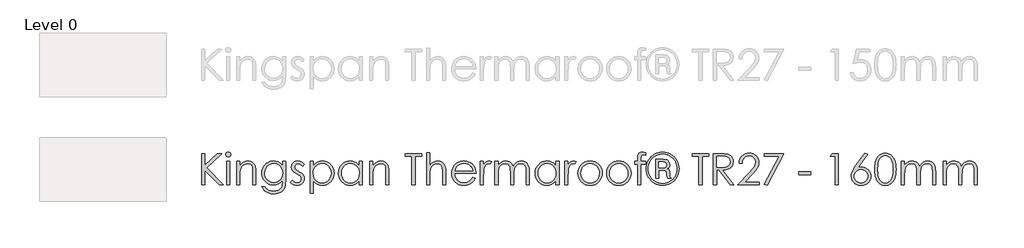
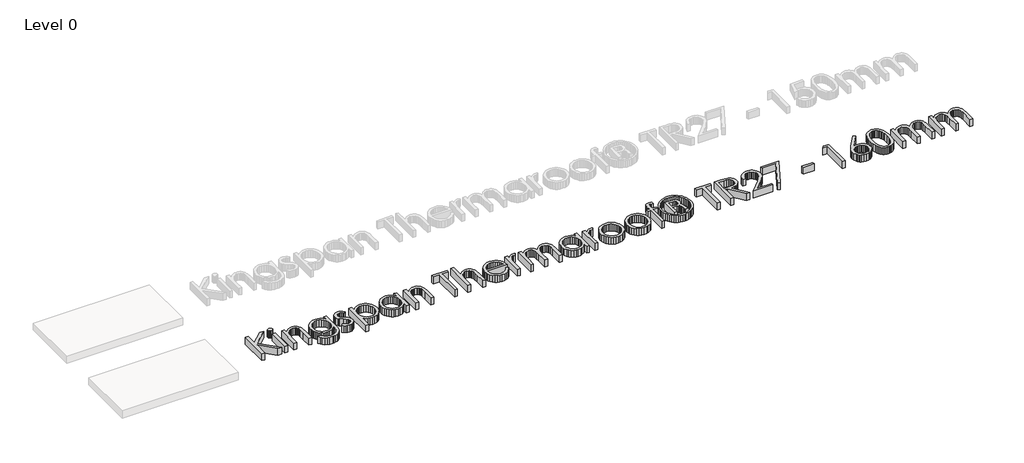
# One storey, part 2 of 12: 1 proxy.
"""IFC4 building model written with IfcOpenShell, lengths in millimetres."""

from ifc_helpers import new_model, si_unit, origin, origin_with_axes, place, context, project, spatial, polyline, outline, extrude, element, save

model = new_model("IFC4")

# Units and contexts
model_context = context("Model", 3, world=origin())
ifc_project = project(units=[si_unit("LENGTHUNIT", "METRE", prefix="MILLI")], contexts=[model_context])

# Site, building, storey
site = spatial("IfcSite", under=ifc_project)
building = spatial("IfcBuilding", under=site)
storey = spatial("IfcBuildingStorey", under=building, Name="Level 0", Elevation=0.0)

# Proxy
placement = place(None, origin())
element("IfcBuildingElementProxy", 1, Name="600mm KI_CenturyGothic", ObjectType="600mm KI_CenturyGothic", at=placement, inside=storey, context=model_context, shape_type="SweptSolid", body=[
    extrude(outline(polyline([(-3852.2663848, -13899.1040353), (-3792.944575, -13899.1040353), (-3792.944575, -14118.3166606), (-3555.1938841, -13899.1040353), (-3471.6181051, -13899.1040353), (-3760.9664119, -14166.0521795), (-3441.9572002, -14492.3221335), (-3520.8984627, -14492.3221335), (-3792.944575, -14214.0966661), (-3792.944575, -14492.3221335), (-3852.2663848, -14492.3221335), (-3852.2663848, -13899.1040353)])), origin_with_axes(), (0.0, 0.0, 1.0), 150.0),
    extrude(outline(polyline([(-3348.1854852, -13869.4431303), (-3329.145347, -13872.7259128), (-3313.1176445, -13882.5742601), (-3302.226531, -13897.0185029), (-3298.5961598, -13914.0889716), (-3302.226531, -13930.9277145), (-3313.1176445, -13945.2947153), (-3329.145347, -13955.1430626), (-3348.1854852, -13958.4258451), (-3366.9938975, -13955.1430626), (-3382.9443581, -13945.2947153), (-3393.8354717, -13930.9277145), (-3397.4658428, -13914.0889716), (-3393.8354717, -13897.0185029), (-3382.9443581, -13882.5742601), (-3366.9938975, -13872.7259128), (-3348.1854852, -13869.4431303)])), origin_with_axes(), (0.0, 0.0, 1.0), 150.0),
    extrude(outline(polyline([(-3377.6919062, -14047.4085598), (-3318.3700964, -14047.4085598), (-3318.3700964, -14492.3221335), (-3377.6919062, -14492.3221335), (-3377.6919062, -14047.4085598)])), origin_with_axes(), (0.0, 0.0, 1.0), 150.0),
    extrude(outline(polyline([(-3189.8395084, -14047.4085598), (-3130.5176986, -14047.4085598), (-3130.5176986, -14126.5043062), (-3096.9946967, -14086.995054), (-3060.0730495, -14059.3038186), (-3019.7141359, -14042.9671483), (-2975.879335, -14037.5215915), (-2953.4357238, -14039.1002237), (-2932.2955704, -14043.8361201), (-2912.4588747, -14051.7292808), (-2893.9256368, -14062.7797059), (-2877.212412, -14076.504633), (-2862.835756, -14092.4213003), (-2841.0921499, -14130.8298549), (-2833.6238199, -14155.2093422), (-2828.2892984, -14185.5557693), (-2824.0216812, -14264.1494431), (-2824.0216812, -14492.3221335), (-2883.343491, -14492.3221335), (-2883.343491, -14279.1343794), (-2883.343491, -14176.0936316), (-2884.7290183, -14155.2962393), (-2889.8125035, -14137.2409359), (-2898.2849788, -14121.9277213), (-2910.1464442, -14109.3565956), (-2924.7403432, -14099.5565245), (-2941.4101193, -14092.5564737), (-2980.977303, -14086.956433), (-3005.3471351, -14089.1143797), (-3028.4038541, -14095.5882198), (-3050.1474602, -14106.3779533), (-3070.5779533, -14121.4835802), (-3088.6622225, -14139.7657818), (-3103.3671568, -14160.0852396), (-3114.6927562, -14182.4419536), (-3122.6390208, -14206.8359237), (-3128.5480292, -14253.9148861), (-3130.5176986, -14328.4147371), (-3130.5176986, -14492.3221335), (-3189.8395084, -14492.3221335), (-3189.8395084, -14047.4085598)])), origin_with_axes(), (0.0, 0.0, 1.0), 150.0),
    extrude(outline(polyline([(-2319.7862977, -14047.4085598), (-2260.4644879, -14047.4085598), (-2260.4644879, -14398.3959346), (-2264.5196897, -14478.6503101), (-2269.588692, -14509.4505337), (-2276.6852953, -14534.032781), (-2289.9371156, -14562.6460921), (-2307.2924139, -14587.7738607), (-2328.7511904, -14609.4160867), (-2354.3134448, -14627.5727702), (-2383.3226209, -14641.9349434), (-2415.122162, -14652.1936385), (-2449.7120682, -14658.3488556), (-2487.0923395, -14660.4005947), (-2541.0458345, -14656.3840138), (-2589.206184, -14644.3342712), (-2630.260275, -14625.5065483), (-2662.8949946, -14601.1560268), (-2690.2000204, -14567.8068192), (-2715.2650299, -14521.9830384), (-2655.94322, -14521.9830384), (-2642.4355358, -14543.1521576), (-2627.0933555, -14561.3957382), (-2609.9166791, -14576.7137804), (-2590.9055067, -14589.1062842), (-2569.7894914, -14598.6698018), (-2546.2982864, -14605.5008859), (-2492.1903075, -14610.9657531), (-2438.5071593, -14605.6360593), (-2415.083541, -14598.973942), (-2393.93856, -14589.6469777), (-2359.6624492, -14565.6054239), (-2336.8567664, -14536.1183134), (-2329.3884364, -14517.4788678), (-2324.0539149, -14493.7704199), (-2319.7862977, -14431.1465171), (-2319.7862977, -14408.4373868), (-2354.757586, -14444.2197154), (-2396.6420279, -14470.6171484), (-2443.392712, -14486.8958872), (-2492.9627269, -14492.3221335), (-2522.4063889, -14490.4248783), (-2550.9521133, -14484.7331129), (-2578.5999001, -14475.2468372), (-2605.3497494, -14461.9660511), (-2630.1540674, -14445.474897), (-2651.9652601, -14426.3575168), (-2670.7833277, -14404.6139108), (-2686.6082702, -14380.2440787), (-2699.1456025, -14353.9287153), (-2708.1008399, -14326.3485152), (-2713.4739824, -14297.5034783), (-2715.2650299, -14267.3936046), (-2713.3967404, -14237.1051089), (-2707.7918722, -14207.8786899), (-2698.4504251, -14179.7143476), (-2685.3723991, -14152.6120819), (-2668.9971079, -14127.4263819), (-2649.7638648, -14105.0117365), (-2627.67267, -14085.3681456), (-2602.7235235, -14068.4956094), (-2575.9833294, -14054.9444766), (-2548.5189922, -14045.265096), (-2520.3305117, -14039.4574676), (-2491.4178881, -14037.5215915), (-2444.5320306, -14042.4650757), (-2400.8903346, -14057.2955281), (-2359.6045177, -14083.8667554), (-2319.7862977, -14124.0325642), (-2319.7862977, -14047.4085598)]), holes=[polyline([(-2484.1571458, -14086.956433), (-2529.0154023, -14092.9813043), (-2570.5908765, -14111.0559183), (-2606.2187212, -14139.7706094), (-2633.2340897, -14177.7157124), (-2650.2659375, -14221.9946544), (-2655.94322, -14269.7108628), (-2653.0080263, -14305.6235372), (-2644.2024452, -14338.2823949), (-2629.5264766, -14367.6874359), (-2608.9801206, -14393.8386602), (-2583.7606272, -14415.2974366), (-2555.0652466, -14430.625134), (-2522.8939786, -14439.8217525), (-2487.2468234, -14442.887292), (-2451.3244937, -14439.8458906), (-2419.1001219, -14430.7216864), (-2390.573708, -14415.5146795), (-2365.7452519, -14394.2248699), (-2345.6382095, -14367.9819208), (-2331.2760363, -14337.9154957), (-2322.6587323, -14304.0255946), (-2319.7862977, -14266.3122174), (-2325.0773706, -14217.6111743), (-2340.9505892, -14174.394309), (-2366.4983608, -14138.1678392), (-2400.8130926, -14110.4379828), (-2440.9982119, -14092.8268205), (-2484.1571458, -14086.956433)])]), origin_with_axes(), (0.0, 0.0, 1.0), 150.0),
    extrude(outline(polyline([(-1904.5336289, -14098.6972079), (-1940.9918246, -14136.3912746), (-1962.9575012, -14114.7635314), (-1984.6721416, -14099.3151434), (-2006.1357456, -14090.0461106), (-2027.3483133, -14086.956433), (-2052.181597, -14091.6295704), (-2073.2300256, -14105.6489825), (-2087.5970264, -14125.8863707), (-2092.3860267, -14149.2134366), (-2088.4466878, -14170.7639378), (-2076.628671, -14191.2330519), (-2052.0657341, -14213.4014886), (-2010.2006027, -14239.1230546), (-1958.3326401, -14271.9895), (-1939.8428507, -14287.8144424), (-1926.315856, -14303.2338647), (-1909.9791857, -14335.9072052), (-1904.5336289, -14372.4426428), (-1906.9474396, -14398.5890395), (-1914.1888714, -14422.6499037), (-1926.2579245, -14444.6252356), (-1943.1545989, -14464.5150351), (-1963.6719892, -14481.0061893), (-1986.6031901, -14492.7855851), (-2011.9482016, -14499.8532226), (-2039.7070237, -14502.2091018), (-2077.4397114, -14498.3276943), (-2113.3958344, -14486.6834719), (-2145.4512394, -14468.2033378), (-2171.4817731, -14443.8141953), (-2135.7959969, -14403.3394188), (-2114.0041146, -14424.9671619), (-2091.5749863, -14440.4155499), (-2068.5086121, -14449.6845827), (-2044.8049918, -14452.7742603), (-2013.637869, -14447.1355987), (-1987.4914724, -14430.2196138), (-1969.7644472, -14405.656677), (-1963.8554388, -14377.0771592), (-1967.7561567, -14353.2866417), (-1979.4583106, -14332.2768341), (-2005.0253927, -14310.571849), (-2050.2119275, -14283.7688958), (-2099.762632, -14253.1038457), (-2117.441381, -14237.945115), (-2130.3890611, -14222.9022472), (-2146.3781427, -14190.7696002), (-2151.7078365, -14154.3114046), (-2149.5305794, -14130.2650232), (-2142.9988078, -14108.3331399), (-2132.1125219, -14088.5157547), (-2116.8717217, -14070.8128676), (-2098.309518, -14056.2479343), (-2077.4590218, -14045.8444105), (-2054.3202332, -14039.6022963), (-2028.8931521, -14037.5215915), (-1997.9481, -14041.3450675), (-1966.9064954, -14052.8154956), (-1935.7683384, -14071.9328757), (-1904.5336289, -14098.6972079)])), origin_with_axes(), (0.0, 0.0, 1.0), 150.0),
    extrude(outline(polyline([(-1795.7769776, -14047.4085598), (-1736.4551678, -14047.4085598), (-1736.4551678, -14128.5125967), (-1700.9238754, -14088.269546), (-1660.4490989, -14059.9217541), (-1614.9922173, -14043.1216322), (-1564.5146096, -14037.5215915), (-1520.0618732, -14041.760243), (-1478.9305402, -14054.4761973), (-1441.1206107, -14075.6694546), (-1406.6320845, -14105.3400147), (-1377.9077381, -14140.9775147), (-1357.3903478, -14180.0715916), (-1345.0799137, -14222.6222452), (-1340.9764356, -14268.6294756), (-1345.0412927, -14315.529816), (-1357.235864, -14358.751509), (-1377.5601494, -14398.2945546), (-1406.014149, -14434.1589528), (-1440.2130179, -14463.930893), (-1477.7719111, -14485.1965645), (-1518.6908288, -14497.9559675), (-1562.9697708, -14502.2091018), (-1612.6170277, -14496.7442346), (-1658.0545988, -14480.3496328), (-1699.3211052, -14453.1025385), (-1736.4551678, -14415.0801936), (-1736.4551678, -14650.5136264), (-1795.7769776, -14650.5136264), (-1795.7769776, -14047.4085598)]), holes=[polyline([(-1568.5311905, -14086.956433), (-1602.5852307, -14090.2536983), (-1633.8392507, -14100.1454943), (-1662.2932503, -14116.6318208), (-1687.9472295, -14139.712678), (-1709.1694525, -14167.6983983), (-1724.3281832, -14198.8993144), (-1733.4234216, -14233.3154262), (-1736.4551678, -14270.9467338), (-1731.048232, -14319.8022608), (-1714.8274246, -14363.4825778), (-1688.5265441, -14400.3269831), (-1652.8793888, -14428.674775), (-1611.4390881, -14446.749389), (-1567.7587711, -14452.7742603), (-1525.0632888, -14446.710768), (-1485.0326535, -14428.5202912), (-1450.2544701, -14399.4193903), (-1423.3163435, -14360.624626), (-1406.05277, -14315.9594743), (-1400.2982454, -14269.2474111), (-1405.9948385, -14222.3036222), (-1423.0846177, -14177.8701963), (-1449.8103289, -14139.5195731), (-1484.414718, -14110.8241925), (-1524.7157001, -14092.9233729), (-1568.5311905, -14086.956433)])]), origin_with_axes(), (0.0, 0.0, 1.0), 150.0),
    extrude(outline(polyline([(-807.0801472, -14047.4085598), (-807.0801472, -14492.3221335), (-866.401957, -14492.3221335), (-866.401957, -14416.4705485), (-903.4780882, -14454.3190991), (-944.8797679, -14481.0448103), (-990.4525125, -14496.9180289), (-1040.0418379, -14502.2091018), (-1084.3159523, -14497.9559675), (-1125.2203871, -14485.1965645), (-1162.7551422, -14463.930893), (-1196.9202178, -14434.1589528), (-1225.340424, -14398.2945546), (-1245.6405713, -14358.751509), (-1257.8206597, -14315.529816), (-1261.8806892, -14268.6294756), (-1257.7820388, -14222.6222452), (-1245.4860875, -14180.0715916), (-1224.9928353, -14140.9775147), (-1196.3022822, -14105.3400147), (-1161.8475494, -14075.6694546), (-1124.061758, -14054.4761973), (-1082.9449079, -14041.760243), (-1038.4969991, -14037.5215915), (-987.7490446, -14043.1216322), (-942.0990581, -14059.9217541), (-921.2051134, -14072.6087427), (-901.6242816, -14088.269546), (-866.401957, -14128.5125967), (-866.401957, -14047.4085598), (-807.0801472, -14047.4085598)]), holes=[polyline([(-1034.3259343, -14086.956433), (-1078.1414247, -14092.9233729), (-1118.4424068, -14110.8241925), (-1153.0467959, -14139.5195731), (-1179.7725071, -14177.8701963), (-1196.8622863, -14222.3036222), (-1202.5588794, -14269.2474111), (-1196.8043548, -14315.9594743), (-1179.5407813, -14360.624626), (-1152.6026548, -14399.4193903), (-1117.8244713, -14428.5202912), (-1077.6779731, -14446.710768), (-1034.6349021, -14452.7742603), (-991.0125165, -14446.749389), (-949.7460102, -14428.674775), (-914.2726493, -14400.3269831), (-888.0297002, -14363.4825778), (-871.8088928, -14319.8022608), (-866.401957, -14270.9467338), (-869.4337032, -14233.3154262), (-878.5289416, -14198.8993144), (-893.6876723, -14167.6983983), (-914.9098953, -14139.712678), (-940.5638746, -14116.6318208), (-969.0178742, -14100.1454943), (-1000.2718941, -14090.2536983), (-1034.3259343, -14086.956433)])]), origin_with_axes(), (0.0, 0.0, 1.0), 150.0),
    extrude(outline(polyline([(-668.662591, -14047.4085598), (-609.3407811, -14047.4085598), (-609.3407811, -14126.5043062), (-575.8177792, -14086.995054), (-538.896132, -14059.3038186), (-498.5372184, -14042.9671483), (-454.7024175, -14037.5215915), (-432.2588064, -14039.1002237), (-411.1186529, -14043.8361201), (-391.2819572, -14051.7292808), (-372.7487193, -14062.7797059), (-356.0354946, -14076.504633), (-341.6588385, -14092.4213003), (-319.9152324, -14130.8298549), (-312.4469024, -14155.2093422), (-307.1123809, -14185.5557693), (-302.8447637, -14264.1494431), (-302.8447637, -14492.3221335), (-362.1665735, -14492.3221335), (-362.1665735, -14279.1343794), (-362.1665735, -14176.0936316), (-363.5521008, -14155.2962393), (-368.635586, -14137.2409359), (-377.1080613, -14121.9277213), (-388.9695267, -14109.3565956), (-403.5634257, -14099.5565245), (-420.2332018, -14092.5564737), (-459.8003855, -14086.956433), (-484.1702176, -14089.1143797), (-507.2269366, -14095.5882198), (-528.9705427, -14106.3779533), (-549.4010358, -14121.4835802), (-567.485305, -14139.7657818), (-582.1902393, -14160.0852396), (-593.5158387, -14182.4419536), (-601.4621033, -14206.8359237), (-607.3711117, -14253.9148861), (-609.3407811, -14328.4147371), (-609.3407811, -14492.3221335), (-668.662591, -14492.3221335), (-668.662591, -14047.4085598)])), origin_with_axes(), (0.0, 0.0, 1.0), 150.0),
    extrude(outline(polyline([(3.6512537, -13948.5388768), (3.6512537, -13899.1040353), (320.0342394, -13899.1040353), (320.0342394, -13948.5388768), (191.5036515, -13948.5388768), (191.5036515, -14492.3221335), (132.1818417, -14492.3221335), (132.1818417, -13948.5388768), (3.6512537, -13948.5388768)])), origin_with_axes(), (0.0, 0.0, 1.0), 150.0),
    extrude(outline(polyline([(409.0169542, -13879.3300987), (468.338764, -13879.3300987), (468.338764, -14128.049145), (502.1128022, -14088.346788), (539.1696229, -14060.076238), (579.470605, -14043.1602531), (622.9771276, -14037.5215915), (645.4207388, -14039.1002237), (666.5608922, -14043.8361201), (686.3975879, -14051.7292808), (704.9308258, -14062.7797059), (721.6440506, -14076.4901502), (736.0207066, -14092.3633688), (757.7643127, -14130.5981291), (765.2326428, -14154.905202), (770.5671642, -14185.266112), (774.8347814, -14264.1494431), (774.8347814, -14492.3221335), (715.5129716, -14492.3221335), (715.5129716, -14279.1343794), (714.1226167, -14214.7532226), (709.9515519, -14176.0936316), (696.4342124, -14137.2409359), (686.7210385, -14121.9277213), (675.0381951, -14109.3565956), (661.3953375, -14099.5565245), (645.8021209, -14092.5564737), (608.7646107, -14086.956433), (585.8961689, -14089.1143797), (564.2539428, -14095.5882198), (543.8379326, -14106.3779533), (524.6481382, -14121.4835802), (507.659739, -14139.7657818), (493.8479146, -14160.0852396), (483.212665, -14182.4419536), (475.7539902, -14206.8359237), (470.1925705, -14253.6831603), (468.338764, -14328.4147371), (468.338764, -14492.3221335), (409.0169542, -14492.3221335), (409.0169542, -13879.3300987)])), origin_with_axes(), (0.0, 0.0, 1.0), 150.0),
    extrude(outline(polyline([(1280.6150037, -14344.0176089), (1328.5050064, -14369.1984813), (1302.8799929, -14411.0829232), (1273.5859872, -14444.0459211), (1240.5071264, -14469.130241), (1203.5275477, -14487.3786493), (1162.048626, -14498.5014887), (1115.4717363, -14502.2091018), (1063.9803281, -14497.7773455), (1018.4172388, -14484.4820766), (978.7824684, -14462.3232951), (945.0760169, -14431.301001), (918.1765113, -14394.6979767), (898.9625788, -14355.7970048), (887.4342193, -14314.5980851), (883.5914328, -14271.1012177), (886.8742152, -14230.220921), (896.7225625, -14191.6192616), (913.1364748, -14155.2962393), (936.1159519, -14121.2518543), (972.3038007, -14084.6198644), (1014.1303111, -14058.4541572), (1061.5954832, -14042.7547329), (1114.6993169, -14037.5215915), (1169.3479893, -14042.8899063), (1218.2035163, -14058.9948508), (1261.2658978, -14085.8364249), (1298.5351338, -14123.4146287), (1320.008393, -14155.5858966), (1335.456781, -14191.5420196), (1344.8802977, -14231.2829977), (1348.278943, -14274.8088308), (942.9132426, -14274.8088308), (946.6498214, -14312.0635839), (956.1602353, -14345.813484), (971.4444841, -14376.0585311), (992.502568, -14402.7987252), (1017.86689, -14424.6630218), (1046.0698533, -14440.2803765), (1077.1114579, -14449.6507893), (1110.9917037, -14452.7742603), (1144.5147056, -14449.7618246), (1177.1108043, -14440.7245177), (1206.8489511, -14426.6857951), (1231.7980977, -14408.6691126), (1255.2796474, -14382.5034055), (1280.6150037, -14344.0176089)]), holes=[polyline([(1288.9571332, -14225.3739893), (1274.5322009, -14182.8523014), (1254.7389538, -14149.8313721), (1228.6311782, -14124.302911), (1195.2626601, -14104.2586276), (1157.3175572, -14091.2819817), (1117.4800267, -14086.956433), (1085.0577224, -14089.6695562), (1054.9912973, -14097.8089256), (1027.2807514, -14111.3745413), (1001.9260846, -14130.3664032), (985.3866543, -14148.1803256), (970.9906877, -14169.9528974), (958.738185, -14195.6841186), (948.6291461, -14225.3739893), (1288.9571332, -14225.3739893)])]), origin_with_axes(), (0.0, 0.0, 1.0), 150.0),
    extrude(outline(polyline([(1427.3746895, -14047.4085598), (1486.6964993, -14047.4085598), (1486.6964993, -14111.8283377), (1512.2442709, -14078.7880979), (1539.1437765, -14055.6734474), (1567.317774, -14042.0595555), (1596.6890217, -14037.5215915), (1620.0160875, -14041.3064466), (1644.8879922, -14052.6610117), (1615.3815711, -14094.680627), (1586.8020534, -14086.956433), (1560.3853099, -14092.9040624), (1534.8954698, -14110.7469505), (1512.8428959, -14141.1030329), (1496.7379515, -14184.590245), (1489.2068623, -14242.7148048), (1486.6964993, -14340.1555119), (1486.6964993, -14492.3221335), (1427.3746895, -14492.3221335), (1427.3746895, -14047.4085598)])), origin_with_axes(), (0.0, 0.0, 1.0), 150.0),
    extrude(outline(polyline([(1704.209802, -14047.4085598), (1763.5316118, -14047.4085598), (1763.5316118, -14123.5691125), (1793.1152748, -14087.0722959), (1823.4713571, -14061.9300445), (1866.8813274, -14043.6237048), (1912.4540719, -14037.5215915), (1943.2929164, -14040.6692006), (1972.4710592, -14050.1120277), (1998.2312461, -14064.7879963), (2018.8162231, -14083.6350296), (2035.5970345, -14109.0669383), (2049.9447249, -14143.497533), (2064.7220735, -14119.0987353), (2081.247021, -14097.8089256), (2099.5195674, -14079.628104), (2119.5397127, -14064.5562705), (2140.83435, -14052.7285984), (2162.9303724, -14044.2802613), (2185.82778, -14039.2112589), (2209.5265726, -14037.5215915), (2251.8551557, -14043.3340475), (2271.0497777, -14050.5996175), (2288.9312868, -14060.7714154), (2305.0458865, -14073.5404736), (2318.9397805, -14088.5978243), (2340.065451, -14125.577403), (2347.3648143, -14148.952745), (2352.5786453, -14177.5226075), (2356.74971, -14250.2458939), (2356.74971, -14492.3221335), (2297.4279002, -14492.3221335), (2297.4279002, -14246.6927647), (2294.9754686, -14185.5750798), (2287.6181738, -14147.1279042), (2274.3132497, -14122.6615197), (2254.01793, -14103.4862082), (2227.9487753, -14091.0888768), (2197.3223461, -14086.956433), (2177.6739277, -14088.5060995), (2158.894481, -14093.1550987), (2123.9425033, -14111.7510957), (2095.2085016, -14140.6975127), (2075.434565, -14177.9474382), (2068.743482, -14202.1048549), (2063.9641369, -14233.1754252), (2060.1406609, -14316.0560267), (2060.1406609, -14492.3221335), (2000.8188511, -14492.3221335), (2000.8188511, -14261.9866688), (1998.4050405, -14193.5309996), (1991.1636086, -14151.2989689), (1977.9166159, -14125.0560199), (1957.4861228, -14104.5675953), (1931.1659318, -14091.3592236), (1900.2498454, -14086.956433), (1863.3088876, -14093.0006148), (1828.801051, -14111.1331602), (1799.8353235, -14139.5002626), (1779.5206934, -14176.2481155), (1767.5288822, -14228.0774572), (1763.5316118, -14301.6890259), (1763.5316118, -14492.3221335), (1704.209802, -14492.3221335), (1704.209802, -14047.4085598)])), origin_with_axes(), (0.0, 0.0, 1.0), 150.0),
    extrude(outline(polyline([(2920.3069034, -14047.4085598), (2920.3069034, -14492.3221335), (2860.9850935, -14492.3221335), (2860.9850935, -14416.4705485), (2823.9089624, -14454.3190991), (2782.5072826, -14481.0448103), (2736.9345381, -14496.9180289), (2687.3452127, -14502.2091018), (2643.0710983, -14497.9559675), (2602.1666635, -14485.1965645), (2564.6319083, -14463.930893), (2530.4668328, -14434.1589528), (2502.0466266, -14398.2945546), (2481.7464792, -14358.751509), (2469.5663908, -14315.529816), (2465.5063614, -14268.6294756), (2469.6050118, -14222.6222452), (2481.9009631, -14180.0715916), (2502.3942153, -14140.9775147), (2531.0847683, -14105.3400147), (2565.5395011, -14075.6694546), (2603.3252926, -14054.4761973), (2644.4421427, -14041.760243), (2688.8900515, -14037.5215915), (2739.638006, -14043.1216322), (2785.2879925, -14059.9217541), (2806.1819372, -14072.6087427), (2825.7627689, -14088.269546), (2860.9850935, -14128.5125967), (2860.9850935, -14047.4085598), (2920.3069034, -14047.4085598)]), holes=[polyline([(2693.0611162, -14086.956433), (2649.2456259, -14092.9233729), (2608.9446437, -14110.8241925), (2574.3402547, -14139.5195731), (2547.6145435, -14177.8701963), (2530.5247643, -14222.3036222), (2524.8281712, -14269.2474111), (2530.5826957, -14315.9594743), (2547.8462693, -14360.624626), (2574.7843958, -14399.4193903), (2609.5625792, -14428.5202912), (2649.7090775, -14446.710768), (2692.7521485, -14452.7742603), (2736.374534, -14446.749389), (2777.6410404, -14428.674775), (2813.1144013, -14400.3269831), (2839.3573504, -14363.4825778), (2855.5781577, -14319.8022608), (2860.9850935, -14270.9467338), (2857.9533474, -14233.3154262), (2848.858109, -14198.8993144), (2833.6993783, -14167.6983983), (2812.4771553, -14139.712678), (2786.823176, -14116.6318208), (2758.3691764, -14100.1454943), (2727.1151565, -14090.2536983), (2693.0611162, -14086.956433)])]), origin_with_axes(), (0.0, 0.0, 1.0), 150.0),
    extrude(outline(polyline([(3029.0635547, -14047.4085598), (3088.3853645, -14047.4085598), (3088.3853645, -14111.8283377), (3113.9331361, -14078.7880979), (3140.8326417, -14055.6734474), (3169.0066393, -14042.0595555), (3198.3778869, -14037.5215915), (3221.7049527, -14041.3064466), (3246.5768574, -14052.6610117), (3217.0704364, -14094.680627), (3188.4909186, -14086.956433), (3162.0741752, -14092.9040624), (3136.584335, -14110.7469505), (3114.5317612, -14141.1030329), (3098.4268167, -14184.590245), (3090.8957276, -14242.7148048), (3088.3853645, -14340.1555119), (3088.3853645, -14492.3221335), (3029.0635547, -14492.3221335), (3029.0635547, -14047.4085598)])), origin_with_axes(), (0.0, 0.0, 1.0), 150.0),
    extrude(outline(polyline([(3508.7360013, -14037.5215915), (3558.0453247, -14042.1464527), (3602.932547, -14056.0210361), (3643.3976682, -14079.1453419), (3679.4406884, -14111.5193699), (3706.340194, -14146.7513497), (3725.5541265, -14185.0923176), (3737.0824861, -14226.5422736), (3740.9252726, -14271.1012177), (3736.8604155, -14315.9160257), (3724.6658442, -14357.8246057), (3704.3415588, -14396.8269577), (3675.8875592, -14432.9230817), (3641.0514443, -14463.2357155), (3601.580813, -14484.8875968), (3557.4756654, -14497.8787255), (3508.7360013, -14502.2091018), (3459.8611639, -14497.8787255), (3415.6594638, -14484.8875968), (3376.130901, -14463.2357155), (3341.2754757, -14432.9230817), (3312.8214761, -14396.8269577), (3292.4971906, -14357.8246057), (3280.3026194, -14315.9160257), (3276.2377623, -14271.1012177), (3280.0805488, -14226.7353785), (3291.6089083, -14185.4012854), (3310.8228409, -14147.0989385), (3337.7223464, -14111.8283377), (3373.7846771, -14079.3191362), (3414.3077298, -14056.0982781), (3459.2915046, -14042.1657631), (3508.7360013, -14037.5215915)]), holes=[polyline([(3508.5815174, -14086.956433), (3474.3054066, -14090.3309403), (3442.5396588, -14100.454462), (3413.2842741, -14117.3269983), (3386.5392524, -14140.948549), (3364.2356423, -14169.3591), (3348.3044922, -14200.5986371), (3338.7458021, -14234.6671602), (3335.5595721, -14271.5646693), (3341.3720281, -14319.3001882), (3358.809396, -14363.6370617), (3386.1530427, -14401.4276807), (3421.6843351, -14429.5244364), (3463.2211882, -14446.9618043), (3508.5815174, -14452.7742603), (3553.9418466, -14446.9618043), (3595.4786998, -14429.5244364), (3631.0099921, -14401.4276807), (3658.3536389, -14363.6370617), (3675.7910068, -14319.3001882), (3681.6034628, -14271.5646693), (3678.4027499, -14234.6671602), (3668.8006112, -14200.5986371), (3652.7970468, -14169.3591), (3630.3920566, -14140.948549), (3603.5746206, -14117.3269983), (3574.3337188, -14100.454462), (3542.669351, -14090.3309403), (3508.5815174, -14086.956433)])]), origin_with_axes(), (0.0, 0.0, 1.0), 150.0),
    extrude(outline(polyline([(4052.519258, -14037.5215915), (4101.8285814, -14042.1464527), (4146.7158037, -14056.0210361), (4187.180925, -14079.1453419), (4223.2239452, -14111.5193699), (4250.1234507, -14146.7513497), (4269.3373833, -14185.0923176), (4280.8657428, -14226.5422736), (4284.7085293, -14271.1012177), (4280.6436722, -14315.9160257), (4268.4491009, -14357.8246057), (4248.1248155, -14396.8269577), (4219.6708159, -14432.9230817), (4184.834701, -14463.2357155), (4145.3640698, -14484.8875968), (4101.2589221, -14497.8787255), (4052.519258, -14502.2091018), (4003.6444206, -14497.8787255), (3959.4427205, -14484.8875968), (3919.9141578, -14463.2357155), (3885.0587324, -14432.9230817), (3856.6047328, -14396.8269577), (3836.2804474, -14357.8246057), (3824.0858761, -14315.9160257), (3820.021019, -14271.1012177), (3823.8638055, -14226.7353785), (3835.392165, -14185.4012854), (3854.6060976, -14147.0989385), (3881.5056031, -14111.8283377), (3917.5679338, -14079.3191362), (3958.0909865, -14056.0982781), (4003.0747613, -14042.1657631), (4052.519258, -14037.5215915)]), holes=[polyline([(4052.3647741, -14086.956433), (4018.0886633, -14090.3309403), (3986.3229156, -14100.454462), (3957.0675308, -14117.3269983), (3930.3225091, -14140.948549), (3908.018899, -14169.3591), (3892.0877489, -14200.5986371), (3882.5290589, -14234.6671602), (3879.3428288, -14271.5646693), (3885.1552848, -14319.3001882), (3902.5926527, -14363.6370617), (3929.9362994, -14401.4276807), (3965.4675918, -14429.5244364), (4007.004445, -14446.9618043), (4052.3647741, -14452.7742603), (4097.7251033, -14446.9618043), (4139.2619565, -14429.5244364), (4174.7932489, -14401.4276807), (4202.1368956, -14363.6370617), (4219.5742635, -14319.3001882), (4225.3867195, -14271.5646693), (4222.1860066, -14234.6671602), (4212.5838679, -14200.5986371), (4196.5803035, -14169.3591), (4174.1753133, -14140.948549), (4147.3578773, -14117.3269983), (4118.1169755, -14100.454462), (4086.4526077, -14090.3309403), (4052.3647741, -14086.956433)])]), origin_with_axes(), (0.0, 0.0, 1.0), 150.0),
    extrude(outline(polyline([(4561.5436418, -13880.7204536), (4561.5436418, -13932.3180694), (4535.2813822, -13922.2379963), (4513.0357036, -13918.8779719), (4499.3059487, -13920.5579841), (4488.086557, -13925.5980206), (4479.9761533, -13932.820142), (4475.5733627, -13941.0464086), (4473.0243787, -13987.6232984), (4473.0243787, -14047.4085598), (4561.5436418, -14047.4085598), (4561.5436418, -14096.8434013), (4472.8698948, -14096.8434013), (4472.8698948, -14492.3221335), (4413.2391172, -14492.3221335), (4413.2391172, -14096.8434013), (4353.9173074, -14096.8434013), (4353.9173074, -14047.4085598), (4413.2391172, -14047.4085598), (4413.2391172, -13979.8991044), (4415.3246496, -13940.0615739), (4421.5812467, -13913.548278), (4432.8392595, -13895.628148), (4449.9290387, -13881.5701149), (4472.000923, -13872.4748765), (4498.2052511, -13869.4431303), (4527.2482205, -13872.2624612), (4561.5436418, -13880.7204536)])), origin_with_axes(), (0.0, 0.0, 1.0), 150.0),
    extrude(outline(polyline([(5194.3096132, -14185.2081806), (5191.7075254, -14227.1505539), (5183.9012619, -14267.5480885), (5170.8908226, -14306.4007842), (5152.6762077, -14343.7086412), (5129.9284564, -14378.3468236), (5103.3186081, -14409.1904957), (5072.8466628, -14436.2396575), (5038.5126205, -14459.494309), (5001.5958009, -14478.1820309), (4963.3755235, -14491.5304036), (4923.8517884, -14499.5394272), (4883.0245956, -14502.2091018), (4842.2649894, -14499.5539101), (4802.7895305, -14491.5883351), (4764.5982189, -14478.3123766), (4727.6910545, -14459.7260349), (4693.3425293, -14436.5582805), (4662.8271355, -14409.5380844), (4636.1448729, -14378.6654466), (4613.2957415, -14343.940367), (4594.9797465, -14306.6373377), (4581.896893, -14268.0308506), (4574.0471808, -14228.1209058), (4571.4306101, -14186.9075032), (4574.0471808, -14145.2403043), (4581.896893, -14104.8958736), (4594.9797465, -14065.8742111), (4613.2957415, -14028.1753168), (4636.13039, -13993.1219589), (4662.769204, -13962.0369058), (4693.2121836, -13934.9201573), (4727.4593286, -13911.7717134), (4764.2940787, -13893.2529583), (4802.4998732, -13880.0252761), (4842.0767122, -13872.0886668), (4883.0245956, -13869.4431303), (4923.9531684, -13872.0741839), (4963.4720759, -13879.9673447), (5001.581318, -13893.1226125), (5038.2808947, -13911.5399876), (5072.4025216, -13934.5870514), (5102.7779145, -13961.6313856), (5129.4070733, -13992.6729902), (5152.289998, -14027.7118651), (5170.6735796, -14065.3335175), (5183.8047094, -14104.1234542), (5191.6833873, -14144.0816752), (5194.3096132, -14185.2081806)]), holes=[polyline([(5154.76174, -14185.8261161), (5152.4782752, -14149.6817158), (5145.6278806, -14114.628358), (5134.2105564, -14080.6660426), (5118.2263025, -14047.7947695), (5098.3220201, -14017.1924785), (5075.1446105, -13990.037109), (5048.6940737, -13966.3286611), (5018.9704097, -13946.0671347), (4987.0115571, -13929.8463273), (4953.8554544, -13918.2600363), (4919.5021017, -13911.3082618), (4883.9514988, -13908.9910036), (4848.1353768, -13911.3082618), (4813.4489182, -13918.2600363), (4779.892123, -13929.8463273), (4747.4649911, -13946.0671347), (4717.3116688, -13966.3286611), (4690.5763024, -13990.037109), (4667.2588918, -14017.1924785), (4647.359437, -14047.7947695), (4631.4427698, -14080.7143188), (4620.0737217, -14114.8214628), (4613.2522929, -14150.1162017), (4610.9784833, -14186.5985355), (4613.2522929, -14222.9070748), (4620.0737217, -14257.9893984), (4631.4427698, -14291.8455062), (4647.359437, -14324.4753981), (4667.268547, -14354.8073424), (4690.6149233, -14381.769607), (4717.398566, -14405.3621921), (4747.619475, -14425.5850974), (4780.0948831, -14441.8059048), (4813.6420231, -14453.3921958), (4848.260895, -14460.3439704), (4883.9514988, -14462.6612286), (4919.3234797, -14460.3294875), (4953.6044181, -14453.3342643), (4986.7943142, -14441.675559), (5018.8931678, -14425.3533716), (5048.7761433, -14405.0435691), (5075.3184049, -14381.4220183), (5098.5199526, -14354.4887194), (5118.3807864, -14324.2436723), (5134.2974536, -14291.6668842), (5145.6665016, -14257.7383621), (5152.4879304, -14222.4581061), (5154.76174, -14185.8261161)])]), origin_with_axes(), (0.0, 0.0, 1.0), 150.0),
    extrude(outline(polyline([(4749.3960396, -14007.8606866), (4893.5294994, -14007.8606866), (4936.9587801, -14010.4676021), (4966.2141648, -14018.2883485), (4986.3356901, -14032.0181033), (5002.3633927, -14052.352044), (5012.848986, -14077.957747), (5016.3441838, -14107.502789), (5014.722103, -14132.7995243), (5009.8558608, -14154.3114046), (4997.0336988, -14169.5666877), (4974.6335362, -14186.2895677), (4995.2957552, -14198.9765563), (5007.8475704, -14213.5559725), (5014.2200304, -14234.6623326), (5016.3441838, -14266.9301529), (5016.3441838, -14307.0959617), (5021.4035308, -14333.0492535), (5036.581572, -14354.3680289), (5046.0050887, -14363.7915455), (4976.7963106, -14363.7915455), (4967.7590036, -14339.6534393), (4961.9658581, -14311.4215103), (4957.022374, -14267.8570562), (4954.4540795, -14247.3300107), (4949.8388735, -14233.9478446), (4942.9836514, -14225.5091627), (4933.6953081, -14219.8125696), (4918.0151943, -14216.5684081), (4891.9846606, -14215.487021), (4808.7178494, -14215.487021), (4808.7178494, -14363.7915455), (4749.3960396, -14363.7915455), (4749.3960396, -14007.8606866)]), holes=[polyline([(4808.7178494, -14057.2955281), (4808.7178494, -14166.0521795), (4888.5860152, -14166.0521795), (4919.1738234, -14163.7349213), (4938.0208567, -14156.7831467), (4946.3340205, -14148.8948136), (4952.2719947, -14138.6699118), (4957.022374, -14111.2104022), (4953.6044181, -14086.995054), (4943.3505506, -14070.272174), (4923.6345454, -14060.5396896), (4891.8301767, -14057.2955281), (4808.7178494, -14057.2955281)])]), origin_with_axes(), (0.0, 0.0, 1.0), 150.0),
    extrude(outline(polyline([(5441.4838208, -13948.5388768), (5441.4838208, -13899.1040353), (5757.8668066, -13899.1040353), (5757.8668066, -13948.5388768), (5629.3362186, -13948.5388768), (5629.3362186, -14492.3221335), (5570.0144088, -14492.3221335), (5570.0144088, -13948.5388768), (5441.4838208, -13948.5388768)])), origin_with_axes(), (0.0, 0.0, 1.0), 150.0),
    extrude(outline(polyline([(5846.8495213, -13899.1040353), (5966.5745281, -13899.1040353), (6050.4206538, -13901.0350838), (6102.0568906, -13906.8282292), (6127.5370756, -13914.364146), (6150.5262079, -13925.2311214), (6171.0242877, -13939.4291555), (6189.0313149, -13956.9582482), (6203.6976283, -13977.2583955), (6214.1735664, -13999.7695934), (6220.4591292, -14024.4918418), (6222.5543169, -14051.4251407), (6216.7804818, -14095.2792521), (6209.5631881, -14115.1062925), (6199.4589768, -14133.5333228), (6186.6754358, -14150.1741332), (6171.4201527, -14164.6425141), (6133.4943602, -14187.0619871), (6110.0176381, -14194.9985964), (6082.4567484, -14200.7338105), (6015.0824664, -14205.6000527), (6232.4412852, -14492.3221335), (6160.4517972, -14492.3221335), (5943.0929784, -14205.6000527), (5906.1713311, -14205.6000527), (5906.1713311, -14492.3221335), (5846.8495213, -14492.3221335), (5846.8495213, -13899.1040353)]), holes=[polyline([(5906.1713311, -13948.5388768), (5906.1713311, -14156.1652112), (6011.0658855, -14156.7831467), (6064.1310982, -14153.8865739), (6101.2844713, -14145.1968557), (6127.276384, -14130.1153669), (6146.8572158, -14108.0434826), (6159.1386842, -14080.9894932), (6163.232507, -14050.9616891), (6159.0807528, -14021.7449253), (6146.62549, -13995.2702504), (6127.4308679, -13973.7390597), (6103.0610359, -13959.3527484), (6067.2014653, -13951.2423447), (6013.5376276, -13948.5388768), (5906.1713311, -13948.5388768)])]), origin_with_axes(), (0.0, 0.0, 1.0), 150.0),
    extrude(outline(polyline([(6390.632778, -14077.0694647), (6331.3109682, -14077.0694647), (6335.7958283, -14037.8112488), (6346.9331505, -14002.222025), (6364.7229348, -13970.3017933), (6389.1651812, -13942.0505538), (6418.5605669, -13918.9359033), (6451.2097694, -13902.4254387), (6487.1127885, -13892.5191599), (6526.2696244, -13889.217067), (6564.7409381, -13892.5143323), (6599.35981, -13902.4061282), (6630.1262402, -13918.8924547), (6657.0402286, -13941.9733119), (6678.9045253, -13969.5342016), (6694.52188, -13999.4606256), (6703.8922928, -14031.7525841), (6707.0157637, -14066.410077), (6700.932961, -14115.2076725), (6682.6845527, -14160.8769695), (6646.902224, -14212.7642426), (6588.2176602, -14280.2157666), (6435.4331031, -14442.887292), (6716.902732, -14442.887292), (6716.902732, -14492.3221335), (6311.5370316, -14492.3221335), (6537.5469477, -14251.6362488), (6594.2811525, -14186.1157733), (6626.993114, -14140.0216457), (6642.5187439, -14102.6558573), (6647.6939539, -14063.3203994), (6645.4442824, -14038.714014), (6638.6952679, -14015.8745379), (6627.4469104, -13994.8019711), (6611.6992099, -13975.4963138), (6592.6880375, -13959.3768865), (6571.6492641, -13947.8630098), (6548.5828898, -13940.9546838), (6523.4889146, -13938.6519085), (6497.1542407, -13940.9257181), (6473.1464803, -13947.7471469), (6451.4656333, -13959.1161949), (6432.1116997, -13975.0328622), (6415.8764095, -13995.0530074), (6403.5514925, -14018.7324896), (6395.1369486, -14046.0713087), (6390.632778, -14077.0694647)])), origin_with_axes(), (0.0, 0.0, 1.0), 150.0),
    extrude(outline(polyline([(6805.8854468, -13899.1040353), (7181.5902423, -13899.1040353), (6865.2072566, -14502.2091018), (6811.2923826, -14479.8089392), (7089.9813016, -13948.5388768), (6805.8854468, -13948.5388768), (6805.8854468, -13899.1040353)])), origin_with_axes(), (0.0, 0.0, 1.0), 150.0),
    extrude(outline(polyline([(7458.4253548, -14245.1479259), (7685.8256258, -14245.1479259), (7685.8256258, -14294.5827674), (7458.4253548, -14294.5827674), (7458.4253548, -14245.1479259)])), origin_with_axes(), (0.0, 0.0, 1.0), 150.0),
    extrude(outline(polyline([(8095.362391, -13899.1040353), (8209.8349459, -13899.1040353), (8209.8349459, -14492.3221335), (8150.5131361, -14492.3221335), (8150.5131361, -13948.5388768), (8061.5304214, -13948.5388768), (8095.362391, -13899.1040353)])), origin_with_axes(), (0.0, 0.0, 1.0), 150.0),
    extrude(outline(polyline([(8714.0703294, -13889.217067), (8766.4403647, -13914.861391), (8590.3287418, -14160.9542114), (8652.8947131, -14156.1652112), (8689.0149752, -14159.2355783), (8722.296596, -14168.4466796), (8752.7395756, -14183.7985152), (8780.3439138, -14205.2910849), (8803.2558043, -14231.2733424), (8819.6214403, -14260.0942413), (8829.4408219, -14291.7537814), (8832.7139491, -14326.2519628), (8831.1835931, -14350.3031718), (8826.5925253, -14373.1764412), (8818.9407457, -14394.8717711), (8808.2282541, -14415.3891614), (8794.706087, -14434.2941262), (8778.6252807, -14451.1521795), (8738.7877502, -14478.7275521), (8692.0949975, -14496.3387144), (8641.9263576, -14502.2091018), (8593.5535927, -14496.3580249), (8548.84982, -14478.804794), (8528.5641556, -14465.9198729), (8510.5764388, -14450.6694174), (8494.8866698, -14433.0534275), (8481.4948485, -14413.0719032), (8463.1305773, -14369.2371023), (8457.0091535, -14322.3898658), (8460.8326296, -14285.448908), (8472.3030576, -14246.6155228), (8493.621833, -14202.8000324), (8526.9903511, -14150.9127592), (8714.0703294, -13889.217067)]), holes=[polyline([(8640.2270349, -14205.6000527), (8613.9502925, -14207.8593794), (8590.2708103, -14214.6373596), (8569.1885883, -14225.9339934), (8550.7036266, -14241.7492805), (8535.6655864, -14260.7797635), (8524.9241292, -14281.7219844), (8518.4792548, -14304.5759434), (8516.3309634, -14329.3416404), (8518.6820149, -14353.9721639), (8525.7351695, -14376.7295705), (8537.4904273, -14397.61386), (8553.9477881, -14416.6250324), (8573.7362075, -14432.4403196), (8595.4846412, -14443.7369533), (8619.1930892, -14450.5149335), (8644.8615513, -14452.7742603), (8670.5300135, -14450.5149335), (8694.2384614, -14443.7369533), (8715.9868951, -14432.4403196), (8735.7753145, -14416.6250324), (8752.2326754, -14397.61386), (8763.9879331, -14376.7295705), (8771.0410877, -14353.9721639), (8773.3921393, -14329.3416404), (8770.9541905, -14304.5759434), (8763.6403443, -14281.7219844), (8751.4506007, -14260.7797635), (8734.3849596, -14241.7492805), (8713.872397, -14225.9339934), (8691.3418886, -14214.6373596), (8666.7934346, -14207.8593794), (8640.2270349, -14205.6000527)])]), origin_with_axes(), (0.0, 0.0, 1.0), 150.0),
    extrude(outline(polyline([(8901.9227272, -14195.8675683), (8903.5013594, -14141.4361388), (8908.2372558, -14093.5413084), (8916.1304165, -14052.1830772), (8927.1808415, -14017.3614452), (8941.1085288, -13987.7198508), (8957.6334763, -13961.9017324), (8976.7556841, -13939.90709), (8998.475152, -13921.7359236), (9022.1691171, -13907.5089238), (9047.2148161, -13897.3467811), (9073.6122491, -13891.2494955), (9101.361416, -13889.217067), (9129.5643793, -13891.2639784), (9156.3962981, -13897.4047126), (9181.8571726, -13907.6392696), (9205.9470026, -13921.9676495), (9228.1299222, -13940.3850245), (9247.8700654, -13962.8865671), (9265.1674323, -13989.4722773), (9280.0220229, -14020.142155), (9291.951075, -14055.6589645), (9300.4718265, -14096.7854699), (9305.5842774, -14143.5216711), (9307.2884277, -14195.8675683), (9305.6084155, -14248.0541539), (9300.5683789, -14294.6213884), (9292.1683179, -14335.5692718), (9280.4082326, -14370.897804), (9265.6984707, -14401.4228531), (9248.44938, -14427.9602871), (9228.6609605, -14450.5101059), (9206.3332123, -14469.0723096), (9182.0744155, -14483.5696562), (9156.4928505, -14493.9249037), (9129.5885174, -14500.1380523), (9101.361416, -14502.2091018), (9073.6363872, -14500.2008114), (9047.3113685, -14494.17594), (9022.3863601, -14484.1344879), (8998.8613617, -14470.0764548), (8977.2867224, -14452.0404618), (8958.2127909, -14430.06513), (8941.6395672, -14404.1504591), (8927.5670512, -14374.2964494), (8916.3476595, -14339.2768849), (8908.3338082, -14297.8655499), (8903.5254975, -14250.0624443), (8901.9227272, -14195.8675683)]), holes=[polyline([(8961.244537, -14195.7130844), (8965.6280171, -14284.0392426), (8971.1073672, -14319.0201861), (8978.7784574, -14347.8797059), (8988.5930114, -14372.1191922), (9000.502753, -14393.2400351), (9014.5076822, -14411.2422347), (9030.607799, -14426.125791), (9065.9073656, -14446.112143), (9084.3102577, -14451.1087309), (9103.2152225, -14452.7742603), (9122.2070845, -14451.1425243), (9140.5617004, -14446.2473164), (9175.3591944, -14426.6664846), (9191.1165501, -14411.990516), (9204.8656154, -14394.070386), (9216.6063903, -14372.9060944), (9226.3388747, -14348.4976414), (9235.8010123, -14315.1387787), (9242.5596821, -14278.5550649), (9247.9666178, -14195.7130844), (9243.1389966, -14114.1069749), (9237.10447, -14079.4156887), (9228.6561329, -14048.7989147), (9218.0739871, -14022.1359626), (9205.6380348, -13999.3061418), (9191.3482759, -13980.3094522), (9175.2047105, -13965.1458939), (9140.1368698, -13945.2754048), (9121.907772, -13940.3077826), (9103.2152225, -13938.6519085), (9084.1992224, -13940.3077826), (9065.7721922, -13945.2754048), (9030.685041, -13965.1458939), (9014.739408, -13979.9570358), (9000.8117207, -13997.8964764), (8988.9019791, -14018.9642155), (8979.0101832, -14043.1602531), (8971.237713, -14072.0149453), (8965.6859486, -14107.0586479), (8961.244537, -14195.7130844)])]), origin_with_axes(), (0.0, 0.0, 1.0), 150.0),
    extrude(outline(polyline([(9406.1581107, -14047.4085598), (9465.4799205, -14047.4085598), (9465.4799205, -14123.5691125), (9495.0635835, -14087.0722959), (9525.4196659, -14061.9300445), (9568.8296361, -14043.6237048), (9614.4023806, -14037.5215915), (9645.2412251, -14040.6692006), (9674.4193679, -14050.1120277), (9700.1795548, -14064.7879963), (9720.7645318, -14083.6350296), (9737.5453433, -14109.0669383), (9751.8930336, -14143.497533), (9766.6703822, -14119.0987353), (9783.1953297, -14097.8089256), (9801.4678761, -14079.628104), (9821.4880214, -14064.5562705), (9842.7826587, -14052.7285984), (9864.8786811, -14044.2802613), (9887.7760887, -14039.2112589), (9911.4748814, -14037.5215915), (9953.8034644, -14043.3340475), (9972.9980865, -14050.5996175), (9990.8795956, -14060.7714154), (10006.9941953, -14073.5404736), (10020.8880892, -14088.5978243), (10042.0137597, -14125.577403), (10049.3131231, -14148.952745), (10054.526954, -14177.5226075), (10058.6980188, -14250.2458939), (10058.6980188, -14492.3221335), (9999.3762089, -14492.3221335), (9999.3762089, -14246.6927647), (9996.9237773, -14185.5750798), (9989.5664826, -14147.1279042), (9976.2615584, -14122.6615197), (9955.9662387, -14103.4862082), (9929.897084, -14091.0888768), (9899.2706549, -14086.956433), (9879.6222364, -14088.5060995), (9860.8427898, -14093.1550987), (9825.890812, -14111.7510957), (9797.1568103, -14140.6975127), (9777.3828737, -14177.9474382), (9770.6917907, -14202.1048549), (9765.9124457, -14233.1754252), (9762.0889696, -14316.0560267), (9762.0889696, -14492.3221335), (9702.7671598, -14492.3221335), (9702.7671598, -14261.9866688), (9700.3533492, -14193.5309996), (9693.1119173, -14151.2989689), (9679.8649246, -14125.0560199), (9659.4344316, -14104.5675953), (9633.1142405, -14091.3592236), (9602.1981541, -14086.956433), (9565.2571964, -14093.0006148), (9530.7493597, -14111.1331602), (9501.7836323, -14139.5002626), (9481.4690021, -14176.2481155), (9469.4771909, -14228.0774572), (9465.4799205, -14301.6890259), (9465.4799205, -14492.3221335), (9406.1581107, -14492.3221335), (9406.1581107, -14047.4085598)])), origin_with_axes(), (0.0, 0.0, 1.0), 150.0),
    extrude(outline(polyline([(10197.115575, -14047.4085598), (10256.4373848, -14047.4085598), (10256.4373848, -14123.5691125), (10286.0210478, -14087.0722959), (10316.3771302, -14061.9300445), (10359.7871004, -14043.6237048), (10405.3598449, -14037.5215915), (10436.1986894, -14040.6692006), (10465.3768322, -14050.1120277), (10491.1370191, -14064.7879963), (10511.7219961, -14083.6350296), (10528.5028076, -14109.0669383), (10542.8504979, -14143.497533), (10557.6278465, -14119.0987353), (10574.152794, -14097.8089256), (10592.4253404, -14079.628104), (10612.4454857, -14064.5562705), (10633.740123, -14052.7285984), (10655.8361454, -14044.2802613), (10678.733553, -14039.2112589), (10702.4323457, -14037.5215915), (10744.7609287, -14043.3340475), (10763.9555508, -14050.5996175), (10781.8370599, -14060.7714154), (10797.9516596, -14073.5404736), (10811.8455535, -14088.5978243), (10832.9712241, -14125.577403), (10840.2705874, -14148.952745), (10845.4844183, -14177.5226075), (10849.6554831, -14250.2458939), (10849.6554831, -14492.3221335), (10790.3336732, -14492.3221335), (10790.3336732, -14246.6927647), (10787.8812417, -14185.5750798), (10780.5239469, -14147.1279042), (10767.2190227, -14122.6615197), (10746.923703, -14103.4862082), (10720.8545483, -14091.0888768), (10690.2281192, -14086.956433), (10670.5797007, -14088.5060995), (10651.8002541, -14093.1550987), (10616.8482763, -14111.7510957), (10588.1142747, -14140.6975127), (10568.3403381, -14177.9474382), (10561.649255, -14202.1048549), (10556.86991, -14233.1754252), (10553.046434, -14316.0560267), (10553.046434, -14492.3221335), (10493.7246241, -14492.3221335), (10493.7246241, -14261.9866688), (10491.3108135, -14193.5309996), (10484.0693816, -14151.2989689), (10470.822389, -14125.0560199), (10450.3918959, -14104.5675953), (10424.0717049, -14091.3592236), (10393.1556184, -14086.956433), (10356.2146607, -14093.0006148), (10321.706824, -14111.1331602), (10292.7410966, -14139.5002626), (10272.4264664, -14176.2481155), (10260.4346552, -14228.0774572), (10256.4373848, -14301.6890259), (10256.4373848, -14492.3221335), (10197.115575, -14492.3221335), (10197.115575, -14047.4085598)])), origin_with_axes(), (0.0, 0.0, 1.0), 150.0),
])

save(model, "model.ifc")
